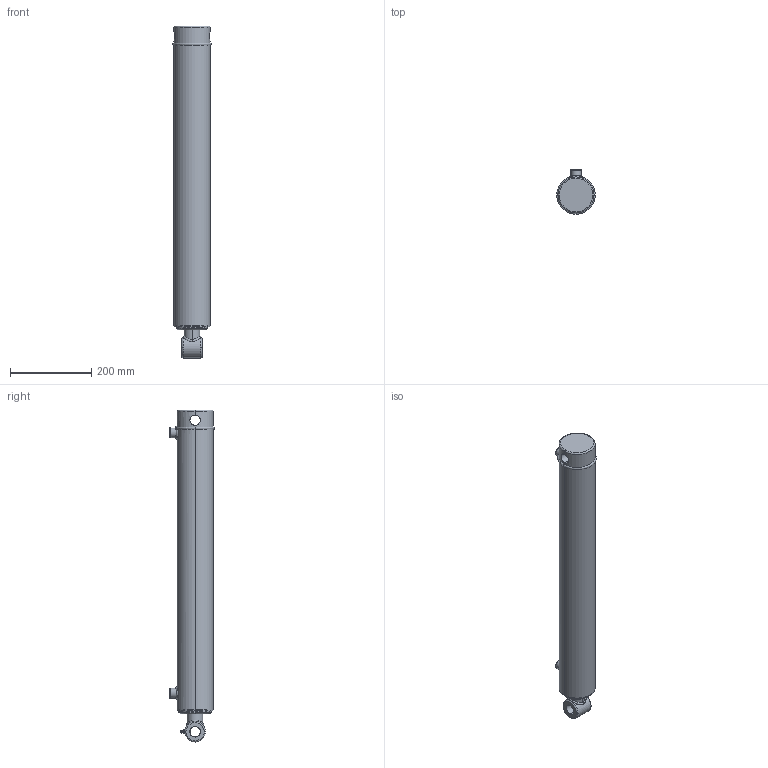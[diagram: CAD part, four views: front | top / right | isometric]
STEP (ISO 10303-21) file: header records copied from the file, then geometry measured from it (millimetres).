
FILE_DESCRIPTION (( 'STEP AP203' ), '1' );
FILE_NAME ('SB-C3001550x610 (24).STEP', '2014-11-19T21:42:54', ( '' ), ( '' ), 'SwSTEP 2.0', 'SolidWorks 2014', '' );
FILE_SCHEMA (( 'CONFIG_CONTROL_DESIGN' ));
Length unit declared in the file: millimetre
Products named in the file (7): 18 NPT GREASE NIPPLE; SPARE 24; SB-C3001550x610 (24); SB-C300150x610 (24) BODY; 3 inch circlip; SB-C3001550x610 (24) body; 24 SPARE
Assembly tree (6 placements, depth 3):
  SB-C3001550x610 (24)
    SB-C3001550x610 (24) body
      SB-C300150x610 (24) BODY
      3 inch circlip
    SPARE 24
      24 SPARE
      18 NPT GREASE NIPPLE
Bounding box: 94.9 x 109.9 x 818.4 mm (x, y, z)
Volume: 5182276.5 mm3; surface area: 366066.9 mm2
Topology: 4 solids, 4 shells, 133 faces, 306 edges, 190 vertices
Faces by surface type: cylinder 51, plane 29, cone 22, bspline 18, torus 11, sphere 2
Entity records: 10452 total; most frequent: CARTESIAN_POINT 6772, DIRECTION 638, ORIENTED_EDGE 604, EDGE_CURVE 302, AXIS2_PLACEMENT_3D 270, VERTEX_POINT 190, EDGE_LOOP 158, CIRCLE 144
